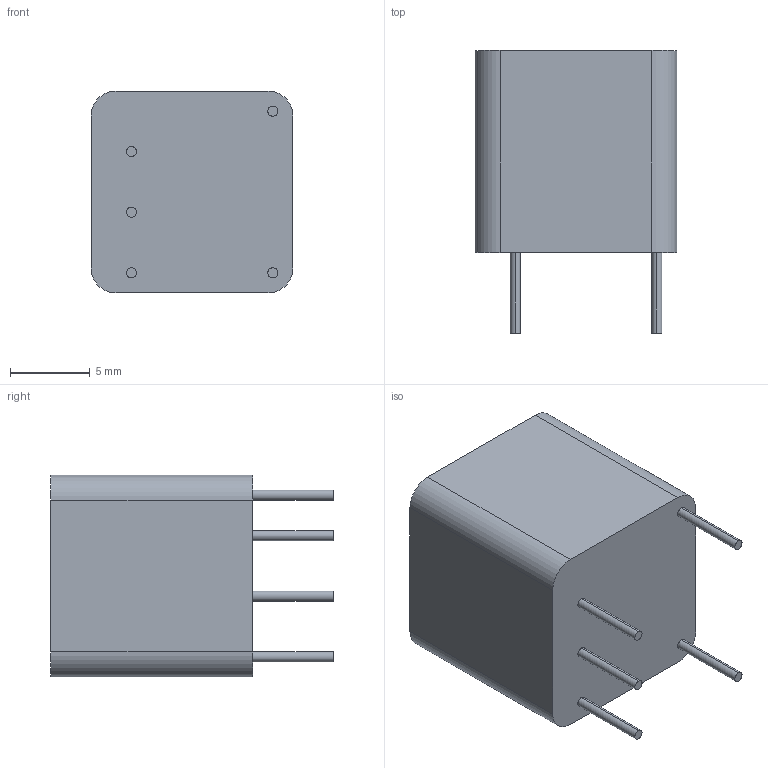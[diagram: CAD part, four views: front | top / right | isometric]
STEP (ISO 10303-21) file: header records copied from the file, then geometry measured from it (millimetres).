
FILE_DESCRIPTION (( 'STEP AP214' ), '1' );
FILE_NAME ('Q01-20.STEP', '2017-10-17T23:19:48', ( '' ), ( '' ), 'SwSTEP 2.0', 'SolidWorks 2017', '' );
FILE_SCHEMA (( 'AUTOMOTIVE_DESIGN' ));
Length unit declared in the file: inch
Products named in the file (1): Q01-20
Bounding box: 12.7 x 17.78 x 12.7 mm (x, y, z)
Volume: 2029.4 mm3; surface area: 979.8 mm2
Topology: 1 solids, 1 shells, 25 faces, 54 edges, 36 vertices
Faces by surface type: cylinder 14, plane 11
Entity records: 866 total; most frequent: DIRECTION 134, CARTESIAN_POINT 116, ORIENTED_EDGE 108, EDGE_CURVE 54, AXIS2_PLACEMENT_3D 54, VERTEX_POINT 36, EDGE_LOOP 30, CIRCLE 28
